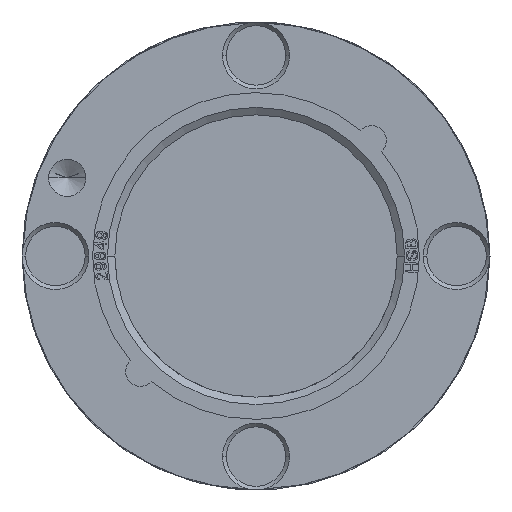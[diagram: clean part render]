
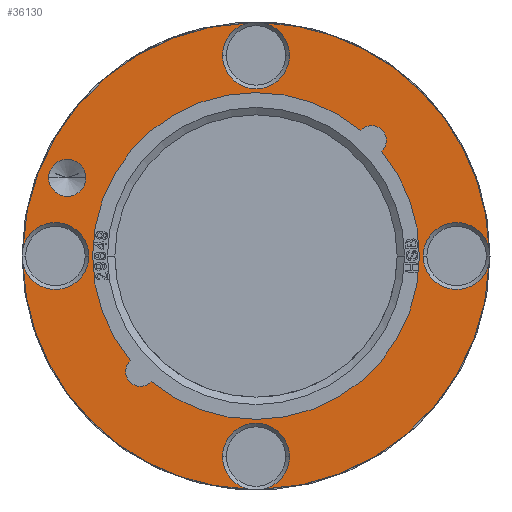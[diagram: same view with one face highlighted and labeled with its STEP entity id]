
A CAD part, left-side view. The second image highlights one B-rep face of the part: STEP entity #36130.
In plain terms, the highlighted planar face has unit normal (-1, 0, 0).
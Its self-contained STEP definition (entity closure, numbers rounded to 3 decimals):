
#34560=CARTESIAN_POINT('',(0.,21.006,-6.538));
#34570=VERTEX_POINT('',#34560);
#34650=CARTESIAN_POINT('',(0.,19.477,-10.23));
#34660=VERTEX_POINT('',#34650);
#34690=CARTESIAN_POINT('',(0.,20.325,-8.419));
#34700=DIRECTION('',(-1.,0.,0.));
#34710=DIRECTION('',(0.,0.924,-0.383));
#34720=AXIS2_PLACEMENT_3D('',#34690,#34700,#34710);
#34730=CIRCLE('',#34720,2.);
#34740=EDGE_CURVE('',#34570,#34660,#34730,.T.);
#34790=CARTESIAN_POINT('',(0.,28.096,12.471));
#34800=DIRECTION('',(-1.,0.,0.));
#34810=DIRECTION('',(0.,-0.924,0.383));
#34820=AXIS2_PLACEMENT_3D('',#34790,#34800,#34810);
#34830=PLANE('',#34820);
#34840=CARTESIAN_POINT('',(0.,19.445,19.445));
#34850=DIRECTION('',(-1.,0.,0.));
#34860=DIRECTION('',(0.,0.924,0.383));
#34870=AXIS2_PLACEMENT_3D('',#34840,#34850,#34860);
#34880=CIRCLE('',#34870,2.5);
#34890=CARTESIAN_POINT('',(0.,21.755,20.402));
#34900=VERTEX_POINT('',#34890);
#34910=CARTESIAN_POINT('',(0.,17.136,18.489));
#34920=VERTEX_POINT('',#34910);
#34930=EDGE_CURVE('',#34900,#34920,#34880,.T.);
#34940=ORIENTED_EDGE('',*,*,#34930,.F.);
#34950=EDGE_CURVE('',#34920,#34900,#34880,.T.);
#34960=ORIENTED_EDGE('',*,*,#34950,.F.);
#34970=EDGE_LOOP('',(#34960,#34940));
#34980=FACE_BOUND('',#34970,.T.);
#34990=CARTESIAN_POINT('',(0.,-20.325,8.419));
#35000=DIRECTION('',(-1.,0.,0.));
#35010=DIRECTION('',(0.,0.924,-0.383));
#35020=AXIS2_PLACEMENT_3D('',#34990,#35000,#35010);
#35030=CIRCLE('',#35020,2.);
#35040=CARTESIAN_POINT('',(0.,-21.006,6.538));
#35050=VERTEX_POINT('',#35040);
#35060=CARTESIAN_POINT('',(0.,-19.477,10.23));
#35070=VERTEX_POINT('',#35060);
#35080=EDGE_CURVE('',#35050,#35070,#35030,.T.);
#35090=ORIENTED_EDGE('',*,*,#35080,.F.);
#35100=CARTESIAN_POINT('',(0.,0.,0.));
#35110=DIRECTION('',(-1.,0.,0.));
#35120=DIRECTION('',(0.,0.383,-0.924));
#35130=AXIS2_PLACEMENT_3D('',#35100,#35110,#35120);
#35140=CIRCLE('',#35130,22.);
#35150=EDGE_CURVE('',#35070,#34570,#35140,.T.);
#35160=ORIENTED_EDGE('',*,*,#35150,.F.);
#35170=ORIENTED_EDGE('',*,*,#34740,.F.);
#35180=EDGE_CURVE('',#34660,#35050,#35140,.T.);
#35190=ORIENTED_EDGE('',*,*,#35180,.F.);
#35200=EDGE_LOOP('',(#35190,#35170,#35160,#35090));
#35210=FACE_BOUND('',#35200,.T.);
#35220=CARTESIAN_POINT('',(0.,10.332,-24.945));
#35230=DIRECTION('',(-1.,0.,0.));
#35240=DIRECTION('',(0.,-0.924,-0.383));
#35250=AXIS2_PLACEMENT_3D('',#35220,#35230,#35240);
#35260=CIRCLE('',#35250,4.5);
#35270=CARTESIAN_POINT('',(0.,11.07,
-29.384));
#35280=VERTEX_POINT('',#35270);
#35290=CARTESIAN_POINT('',(0.,6.175,
-26.667));
#35300=VERTEX_POINT('',#35290);
#35310=EDGE_CURVE('',#35280,#35300,#35260,.T.);
#35320=ORIENTED_EDGE('',*,*,#35310,.F.);
#35330=CARTESIAN_POINT('',(0.,14.49,
-23.223));
#35340=VERTEX_POINT('',#35330);
#35350=EDGE_CURVE('',#35300,#35340,#35260,.T.);
#35360=ORIENTED_EDGE('',*,*,#35350,.F.);
#35370=CARTESIAN_POINT('',(0.,12.95,
-28.605));
#35380=VERTEX_POINT('',#35370);
#35390=EDGE_CURVE('',#35340,#35380,#35260,.T.);
#35400=ORIENTED_EDGE('',*,*,#35390,.F.);
#35410=CARTESIAN_POINT('',(0.,0.,0.));
#35420=DIRECTION('',(-1.,0.,0.));
#35430=DIRECTION('',(0.,-0.924,0.383));
#35440=AXIS2_PLACEMENT_3D('',#35410,#35420,#35430);
#35450=CIRCLE('',#35440,31.4);
#35460=CARTESIAN_POINT('',(0.,29.01,-12.016));
#35470=VERTEX_POINT('',#35460);
#35480=EDGE_CURVE('',#35470,#35380,#35450,.T.);
#35490=ORIENTED_EDGE('',*,*,#35480,.T.);
#35500=CARTESIAN_POINT('',(0.,29.384,
11.07));
#35510=VERTEX_POINT('',#35500);
#35520=EDGE_CURVE('',#35510,#35470,#35450,.T.);
#35530=ORIENTED_EDGE('',*,*,#35520,.T.);
#35540=CARTESIAN_POINT('',(0.,24.945,10.332));
#35550=DIRECTION('',(-1.,0.,0.));
#35560=DIRECTION('',(0.,-0.924,-0.383));
#35570=AXIS2_PLACEMENT_3D('',#35540,#35550,#35560);
#35580=CIRCLE('',#35570,4.5);
#35590=CARTESIAN_POINT('',(0.,20.787,
8.61));
#35600=VERTEX_POINT('',#35590);
#35610=EDGE_CURVE('',#35510,#35600,#35580,.T.);
#35620=ORIENTED_EDGE('',*,*,#35610,.F.);
#35630=CARTESIAN_POINT('',(0.,28.605,
12.95));
#35640=VERTEX_POINT('',#35630);
#35650=EDGE_CURVE('',#35600,#35640,#35580,.T.);
#35660=ORIENTED_EDGE('',*,*,#35650,.F.);
#35670=CARTESIAN_POINT('',(0.,-11.07,
29.384));
#35680=VERTEX_POINT('',#35670);
#35690=EDGE_CURVE('',#35680,#35640,#35450,.T.);
#35700=ORIENTED_EDGE('',*,*,#35690,.T.);
#35710=CARTESIAN_POINT('',(0.,-10.332,24.945));
#35720=DIRECTION('',(-1.,0.,0.));
#35730=DIRECTION('',(0.,-0.924,-0.383));
#35740=AXIS2_PLACEMENT_3D('',#35710,#35720,#35730);
#35750=CIRCLE('',#35740,4.5);
#35760=CARTESIAN_POINT('',(0.,-6.175,
26.667));
#35770=VERTEX_POINT('',#35760);
#35780=EDGE_CURVE('',#35680,#35770,#35750,.T.);
#35790=ORIENTED_EDGE('',*,*,#35780,.F.);
#35800=CARTESIAN_POINT('',(0.,-14.49,
23.223));
#35810=VERTEX_POINT('',#35800);
#35820=EDGE_CURVE('',#35770,#35810,#35750,.T.);
#35830=ORIENTED_EDGE('',*,*,#35820,.F.);
#35840=CARTESIAN_POINT('',(0.,-12.95,
28.605));
#35850=VERTEX_POINT('',#35840);
#35860=EDGE_CURVE('',#35810,#35850,#35750,.T.);
#35870=ORIENTED_EDGE('',*,*,#35860,.F.);
#35880=CARTESIAN_POINT('',(0.,-29.01,12.016));
#35890=VERTEX_POINT('',#35880);
#35900=EDGE_CURVE('',#35890,#35850,#35450,.T.);
#35910=ORIENTED_EDGE('',*,*,#35900,.T.);
#35920=CARTESIAN_POINT('',(0.,-29.384,-11.07));
#35930=VERTEX_POINT('',#35920);
#35940=EDGE_CURVE('',#35930,#35890,#35450,.T.);
#35950=ORIENTED_EDGE('',*,*,#35940,.T.);
#35960=CARTESIAN_POINT('',(0.,-24.945,-10.332));
#35970=DIRECTION('',(-1.,0.,0.));
#35980=DIRECTION('',(0.,-0.924,-0.383));
#35990=AXIS2_PLACEMENT_3D('',#35960,#35970,#35980);
#36000=CIRCLE('',#35990,4.5);
#36010=CARTESIAN_POINT('',(0.,-20.787,
-8.61));
#36020=VERTEX_POINT('',#36010);
#36030=EDGE_CURVE('',#35930,#36020,#36000,.T.);
#36040=ORIENTED_EDGE('',*,*,#36030,.F.);
#36050=CARTESIAN_POINT('',(0.,-28.605,-12.95));
#36060=VERTEX_POINT('',#36050);
#36070=EDGE_CURVE('',#36020,#36060,#36000,.T.);
#36080=ORIENTED_EDGE('',*,*,#36070,.F.);
#36090=EDGE_CURVE('',#35280,#36060,#35450,.T.);
#36100=ORIENTED_EDGE('',*,*,#36090,.T.);
#36110=EDGE_LOOP('',(#36100,#36080,#36040,#35950,#35910,#35870,#35830,
#35790,#35700,#35660,#35620,#35530,#35490,#35400,#35360,#35320));
#36120=FACE_OUTER_BOUND('',#36110,.T.);
#36130=ADVANCED_FACE('',(#34980,#35210,#36120),#34830,.T.);
